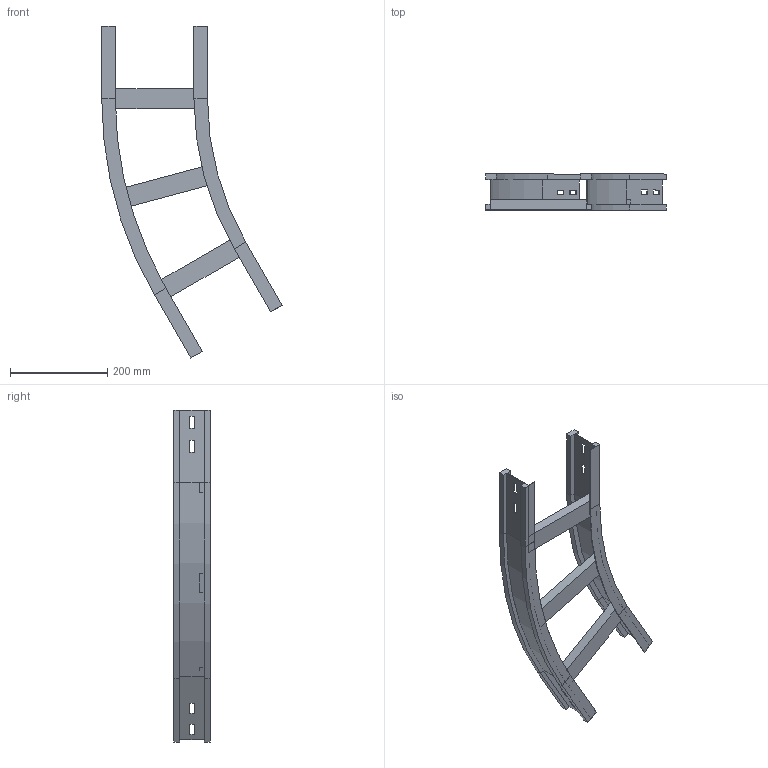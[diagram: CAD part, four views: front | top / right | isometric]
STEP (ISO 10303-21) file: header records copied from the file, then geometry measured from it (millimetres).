
FILE_DESCRIPTION (( 'STEP AP214' ), '1' );
FILE_NAME ('12S6C200.step', '2025-02-21T16:02:27', ( '' ), ( '' ), 'SwSTEP 2.0', 'SolidWorks 2023', '' );
FILE_SCHEMA (( 'AUTOMOTIVE_DESIGN' ));
Length unit declared in the file: millimetre
Products named in the file (4): 12S6C200; LONGH.ESTERNO 30°_H75_R600+200; LONGH.INTERNO 30°_H75_R600; TRAVERSINO_200
Assembly tree (5 placements, depth 2):
  12S6C200
    LONGH.INTERNO 30°_H75_R600
    LONGH.ESTERNO 30°_H75_R600+200
    TRAVERSINO_200  x3
Bounding box: 372.18 x 75 x 684.4 mm (x, y, z)
Volume: 1132864.6 mm3; surface area: 404818.5 mm2
Topology: 5 solids, 5 shells, 126 faces, 300 edges, 184 vertices
Faces by surface type: plane 114, cylinder 12
Entity records: 3389 total; most frequent: CARTESIAN_POINT 566, ORIENTED_EDGE 552, DIRECTION 544, EDGE_CURVE 276, VECTOR 252, LINE 252, VERTEX_POINT 168, AXIS2_PLACEMENT_3D 146
